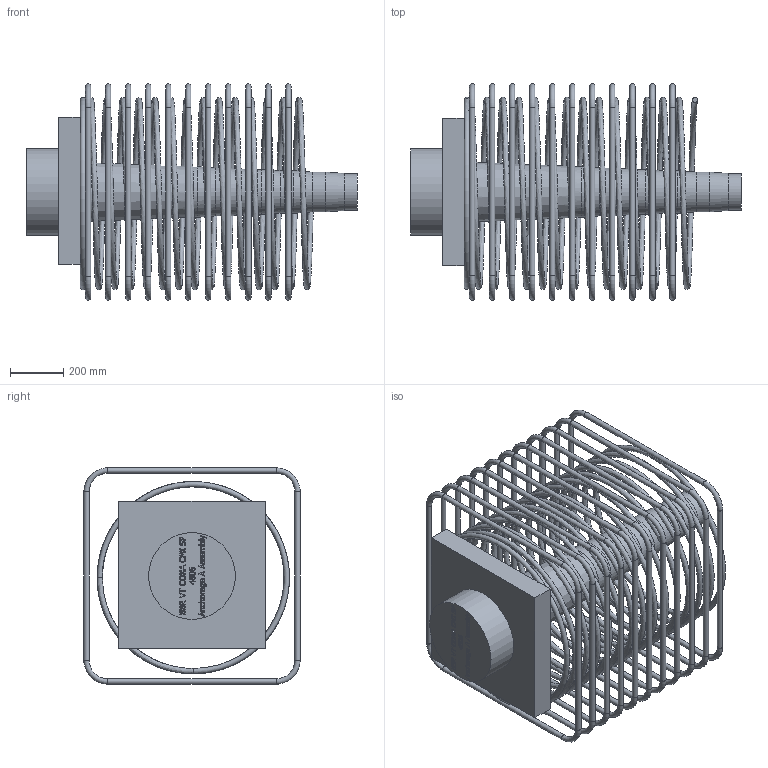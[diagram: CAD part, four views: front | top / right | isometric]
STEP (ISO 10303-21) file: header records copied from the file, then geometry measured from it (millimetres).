
FILE_DESCRIPTION(/* description */ (''),/* implementation_level */ '2;1');
FILE_NAME(/* name */ 'Z:\04 Publications\05 Give-out\BBR\6_3D_Models\BBR VT CONA CMI\BBR VT CONA CMI SP\04806\BBR VT CONA CMI SP 4806_Anchorage A Assembly_CS-34,28.stp',/* time_stamp */ '2017-05-10T09:12:20+02:00',/* author */ ('IP'),/* organization */ (''),/* preprocessor_version */ 'ST-DEVELOPER v16.1',/* originating_system */ 'Autodesk Inventor 2016',/* authorisation */ '');
FILE_SCHEMA (('AUTOMOTIVE_DESIGN { 1 0 10303 214 3 1 1 }'));
Length unit declared in the file: millimetre
Products named in the file (1): BBR VT CONA CMI SP 4806_Anchorage A Assembly_CS-34,28
Bounding box: 1238.15 x 810 x 810 mm (x, y, z)
Volume: 82097617 mm3; surface area: 5627896.7 mm2
Topology: 13 solids, 13 shells, 722 faces, 1882 edges, 1222 vertices
Faces by surface type: plane 320, bspline 301, torus 50, cylinder 50, cone 1
Full cylindrical faces by diameter (mm): 20 x44, 139 x1, 149 x1, 159 x1, 169 x1, 179 x1, 325 x1
Entity records: 30654 total; most frequent: CARTESIAN_POINT 14565, ORIENTED_EDGE 3566, DIRECTION 2130, EDGE_CURVE 1780, VERTEX_POINT 1221, LINE 1068, VECTOR 1068, EDGE_LOOP 886
